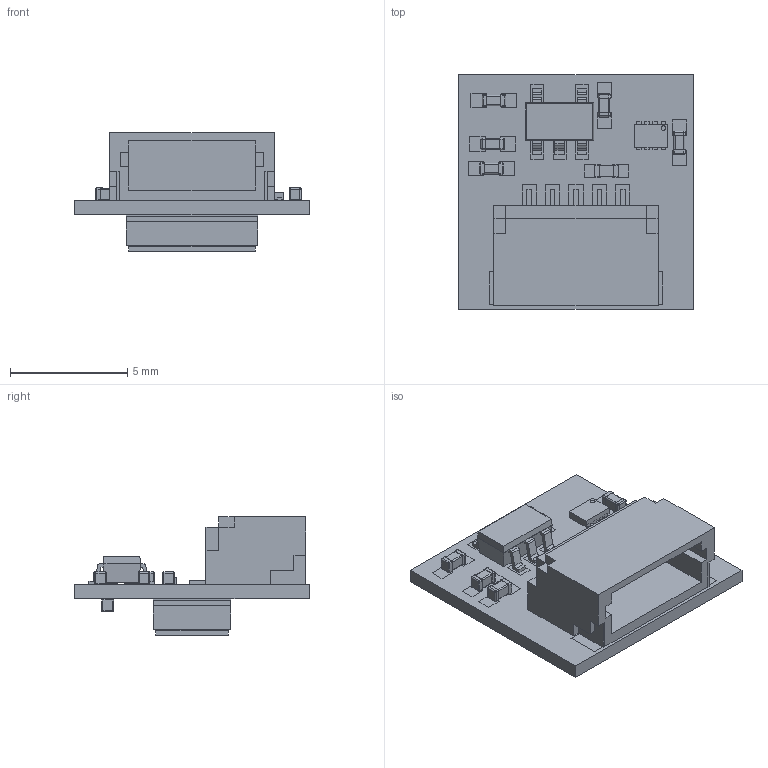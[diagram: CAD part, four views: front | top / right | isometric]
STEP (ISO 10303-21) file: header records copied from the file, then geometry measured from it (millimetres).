
FILE_DESCRIPTION(('FreeCAD Model'),'2;1');
FILE_NAME('/home/devy/MEGA/TinyCircuits/Assets/BoardsANDBoardModels_2/Wirelings/TinyCircuits-Wireling-Pulse-Oximetry-AST1041/cad/Wireling_PULSE_AST1041_REV1-STEP.step','2020-08-11T14:03:36',('Author'),(''), 'Open CASCADE STEP processor 7.4','FreeCAD','Unknown');
FILE_SCHEMA(('AUTOMOTIVE_DESIGN { 1 0 10303 214 1 1 1 1 }'));
Products named in the file (1): Wireling_PULSE_AST1041_REV1-STEP
Bounding box: 10 x 10.01 x 5.04 mm (x, y, z)
Volume: 203.6 mm3; surface area: 814.6 mm2
Topology: 124 solids, 124 shells, 1121 faces, 3400 edges, 3349 vertices
Faces by surface type: plane 930, cylinder 133, sphere 48, revolution 10
Entity records: 84709 total; most frequent: CARTESIAN_POINT 14799, DIRECTION 10619, LINE 6949, VECTOR 6949, ORIENTED_EDGE 4880, PCURVE 4880, DEFINITIONAL_REPRESENTATION 4880, EDGE_CURVE 2440
